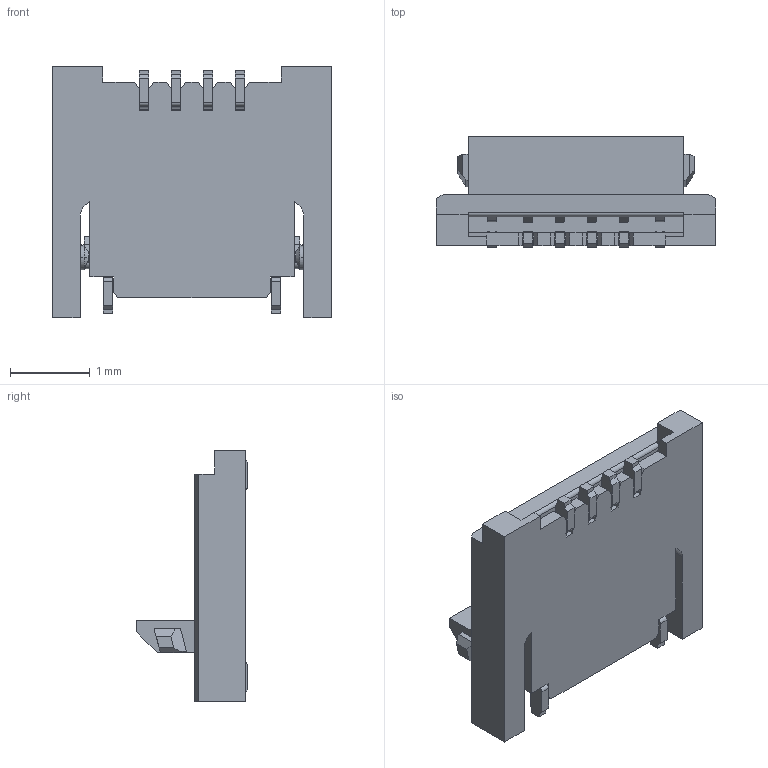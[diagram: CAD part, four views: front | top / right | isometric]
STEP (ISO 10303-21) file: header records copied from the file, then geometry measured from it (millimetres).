
FILE_DESCRIPTION (( 'STEP AP203' ), '1' );
FILE_NAME ('FF18-4A-R1xA-xx(Open).STEP', '2009-12-02T04:07:35', ( '' ), ( '' ), 'SwSTEP 2.0', 'SolidWorks 2009', '' );
FILE_SCHEMA (( 'CONFIG_CONTROL_DESIGN' ));
Length unit declared in the file: millimetre
Products named in the file (1): FF18-4A-R1xA-xx(Open)
Bounding box: 3.5 x 1.39 x 3.15 mm (x, y, z)
Volume: 5.4 mm3; surface area: 47.1 mm2
Topology: 1 solids, 1 shells, 342 faces, 987 edges, 651 vertices
Faces by surface type: plane 298, cylinder 41, cone 3
Entity records: 11208 total; most frequent: CARTESIAN_POINT 2068, ORIENTED_EDGE 1974, DIRECTION 1744, EDGE_CURVE 987, VECTOR 880, LINE 880, VERTEX_POINT 651, AXIS2_PLACEMENT_3D 432
